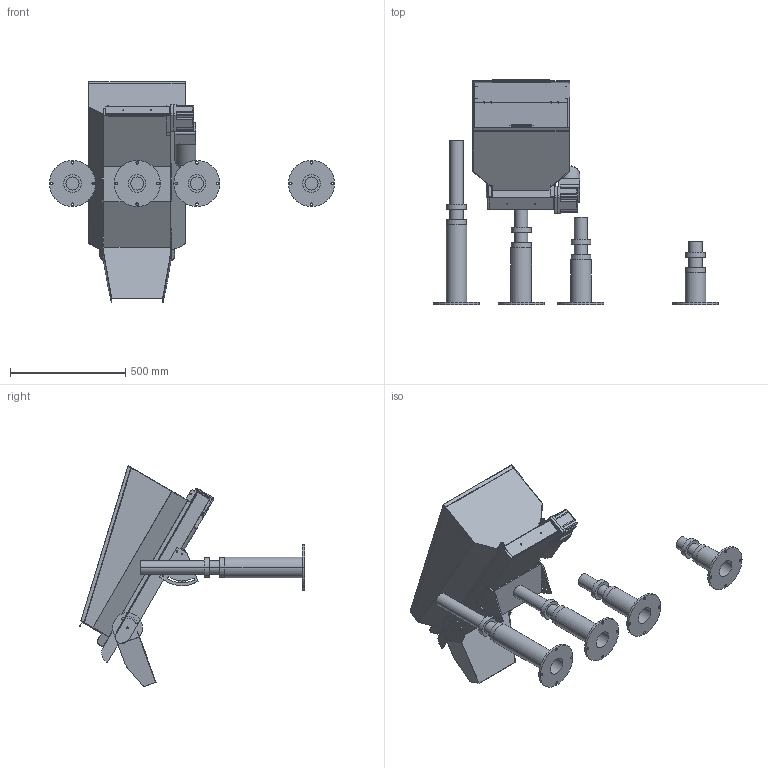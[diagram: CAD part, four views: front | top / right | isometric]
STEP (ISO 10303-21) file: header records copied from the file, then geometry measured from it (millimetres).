
FILE_DESCRIPTION (( 'STEP AP203' ), '1' );
FILE_NAME ('SC25-55怀冞蹋累.STEP', '2025-07-13T03:05:55', ( '' ), ( '' ), 'SwSTEP 2.0', 'SolidWorks 2022', '' );
FILE_SCHEMA (( 'CONFIG_CONTROL_DESIGN' ));
Length unit declared in the file: millimetre
Products named in the file (1): SC25-55怀冞蹋累
Bounding box: 1237.79 x 978.99 x 957.85 mm (x, y, z)
Volume: 25587101.1 mm3; surface area: 4262833.2 mm2
Topology: 37 solids, 37 shells, 676 faces, 1741 edges, 1139 vertices
Faces by surface type: cylinder 384, plane 270, bspline 8, cone 8, torus 6
Entity records: 21584 total; most frequent: CARTESIAN_POINT 4023, DIRECTION 3829, ORIENTED_EDGE 3446, EDGE_CURVE 1723, AXIS2_PLACEMENT_3D 1454, VERTEX_POINT 1138, LINE 921, VECTOR 921
